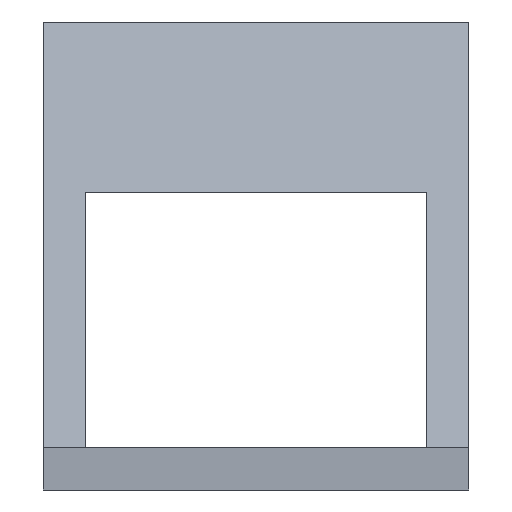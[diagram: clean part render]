
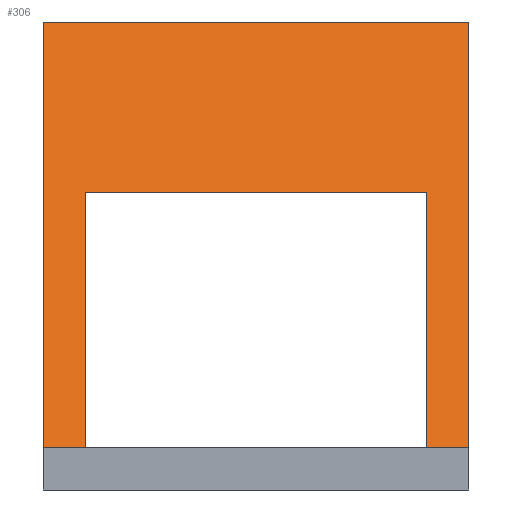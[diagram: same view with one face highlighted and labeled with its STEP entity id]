
A CAD part, left-side view. The second image highlights one B-rep face of the part: STEP entity #306.
In plain terms, the highlighted planar face has unit normal (-0.906, 0, 0.423).
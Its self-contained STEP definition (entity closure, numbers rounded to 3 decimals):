
#215=CARTESIAN_POINT('Vertex',(-150.,-40.,10.)) ;
#218=CARTESIAN_POINT('Line Origine',(-136.011,-40.,40.)) ;
#222=CARTESIAN_POINT('Vertex',(-122.022,-40.,70.)) ;
#244=CARTESIAN_POINT('Axis2P3D Location',(-103.369,50.,110.)) ;
#249=CARTESIAN_POINT('Line Origine',(-150.,-45.,10.)) ;
#253=CARTESIAN_POINT('Vertex',(-150.,-50.,10.)) ;
#256=CARTESIAN_POINT('Line Origine',(-126.685,-50.,60.)) ;
#260=CARTESIAN_POINT('Vertex',(-103.369,-50.,110.)) ;
#263=CARTESIAN_POINT('Line Origine',(-103.369,0.,110.)) ;
#267=CARTESIAN_POINT('Vertex',(-103.369,50.,110.)) ;
#270=CARTESIAN_POINT('Line Origine',(-126.685,50.,60.)) ;
#274=CARTESIAN_POINT('Vertex',(-150.,50.,10.)) ;
#277=CARTESIAN_POINT('Line Origine',(-150.,45.,10.)) ;
#281=CARTESIAN_POINT('Vertex',(-150.,40.,10.)) ;
#284=CARTESIAN_POINT('Line Origine',(-136.011,40.,40.)) ;
#288=CARTESIAN_POINT('Vertex',(-122.022,40.,70.)) ;
#291=CARTESIAN_POINT('Line Origine',(-122.022,0.,70.)) ;
#219=DIRECTION('Vector Direction',(0.423,0.,0.906)) ;
#245=DIRECTION('Axis2P3D Direction',(-0.906,0.,0.423)) ;
#246=DIRECTION('Axis2P3D XDirection',(-0.423,0.,-0.906)) ;
#250=DIRECTION('Vector Direction',(0.,-1.,0.)) ;
#257=DIRECTION('Vector Direction',(-0.423,0.,-0.906)) ;
#264=DIRECTION('Vector Direction',(0.,-1.,0.)) ;
#271=DIRECTION('Vector Direction',(-0.423,0.,-0.906)) ;
#278=DIRECTION('Vector Direction',(0.,-1.,0.)) ;
#285=DIRECTION('Vector Direction',(0.423,0.,0.906)) ;
#292=DIRECTION('Vector Direction',(0.,1.,0.)) ;
#247=AXIS2_PLACEMENT_3D('Plane Axis2P3D',#244,#245,#246) ;
#297=ORIENTED_EDGE('',*,*,#255,.T.) ;
#298=ORIENTED_EDGE('',*,*,#262,.T.) ;
#299=ORIENTED_EDGE('',*,*,#269,.F.) ;
#300=ORIENTED_EDGE('',*,*,#276,.F.) ;
#301=ORIENTED_EDGE('',*,*,#283,.T.) ;
#302=ORIENTED_EDGE('',*,*,#290,.T.) ;
#303=ORIENTED_EDGE('',*,*,#295,.F.) ;
#304=ORIENTED_EDGE('',*,*,#224,.F.) ;
#220=VECTOR('Line Direction',#219,1.) ;
#251=VECTOR('Line Direction',#250,1.) ;
#258=VECTOR('Line Direction',#257,1.) ;
#265=VECTOR('Line Direction',#264,1.) ;
#272=VECTOR('Line Direction',#271,1.) ;
#279=VECTOR('Line Direction',#278,1.) ;
#286=VECTOR('Line Direction',#285,1.) ;
#293=VECTOR('Line Direction',#292,1.) ;
#306=ADVANCED_FACE('EC',(#305),#248,.T.) ;
#224=EDGE_CURVE('',#216,#223,#221,.T.) ;
#255=EDGE_CURVE('',#216,#254,#252,.T.) ;
#262=EDGE_CURVE('',#254,#261,#259,.F.) ;
#269=EDGE_CURVE('',#268,#261,#266,.T.) ;
#276=EDGE_CURVE('',#275,#268,#273,.F.) ;
#283=EDGE_CURVE('',#275,#282,#280,.T.) ;
#290=EDGE_CURVE('',#282,#289,#287,.T.) ;
#295=EDGE_CURVE('',#223,#289,#294,.T.) ;
#296=EDGE_LOOP('',(#297,#298,#299,#300,#301,#302,#303,#304)) ;
#305=FACE_OUTER_BOUND('',#296,.T.) ;
#221=LINE('Line',#218,#220) ;
#252=LINE('Line',#249,#251) ;
#259=LINE('Line',#256,#258) ;
#266=LINE('Line',#263,#265) ;
#273=LINE('Line',#270,#272) ;
#280=LINE('Line',#277,#279) ;
#287=LINE('Line',#284,#286) ;
#294=LINE('Line',#291,#293) ;
#248=PLANE('',#247) ;
#216=VERTEX_POINT('',#215) ;
#223=VERTEX_POINT('',#222) ;
#254=VERTEX_POINT('',#253) ;
#261=VERTEX_POINT('',#260) ;
#268=VERTEX_POINT('',#267) ;
#275=VERTEX_POINT('',#274) ;
#282=VERTEX_POINT('',#281) ;
#289=VERTEX_POINT('',#288) ;
